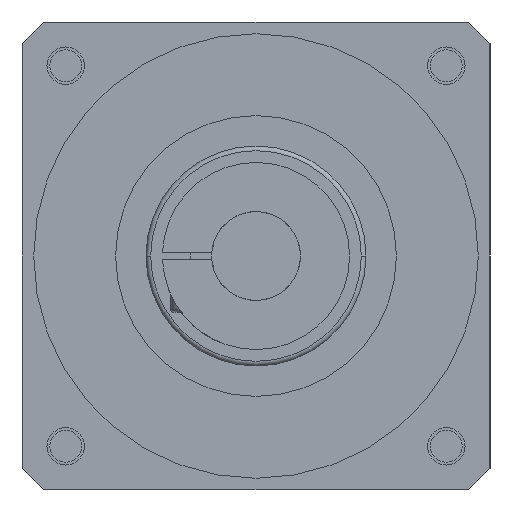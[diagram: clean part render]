
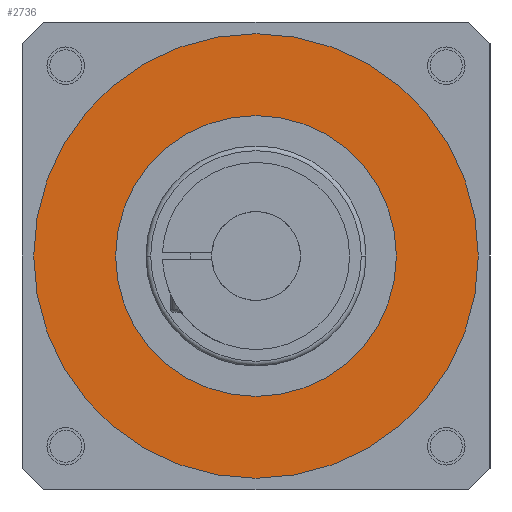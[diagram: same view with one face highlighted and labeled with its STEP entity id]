
A CAD part, left-side view. The second image highlights one B-rep face of the part: STEP entity #2736.
In plain terms, the highlighted planar face has unit normal (-1, 0, 0).
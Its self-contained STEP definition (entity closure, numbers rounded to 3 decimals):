
#273=CARTESIAN_POINT('',(5.,0.,0.));
#274=DIRECTION('',(-1.,0.,0.));
#275=DIRECTION('',(0.,1.,0.));
#276=AXIS2_PLACEMENT_3D('',#273,#274,#275);
#282=CARTESIAN_POINT('',(5.,0.,0.));
#283=DIRECTION('',(1.,0.,0.));
#284=DIRECTION('',(0.,1.,0.));
#285=AXIS2_PLACEMENT_3D('',#282,#283,#284);
#291=CARTESIAN_POINT('',(5.,0.,0.));
#292=DIRECTION('',(-1.,0.,0.));
#293=DIRECTION('',(0.,1.,0.));
#294=AXIS2_PLACEMENT_3D('',#291,#292,#293);
#296=CARTESIAN_POINT('',(5.,0.,0.));
#297=DIRECTION('',(1.,0.,0.));
#298=DIRECTION('',(0.,1.,0.));
#299=AXIS2_PLACEMENT_3D('',#296,#297,#298);
#2121=CARTESIAN_POINT('',(5.,-30.,0.));
#2123=VERTEX_POINT('',#2121);
#2125=CARTESIAN_POINT('',(5.,30.,0.));
#2127=VERTEX_POINT('',#2125);
#2133=CARTESIAN_POINT('',(5.,47.5,0.));
#2134=CARTESIAN_POINT('',(5.,-47.5,0.));
#2135=VERTEX_POINT('',#2133);
#2136=VERTEX_POINT('',#2134);
#2721=CARTESIAN_POINT('',(5.,0.,0.));
#2722=DIRECTION('',(1.,0.,0.));
#2723=DIRECTION('',(0.,1.,0.));
#2724=AXIS2_PLACEMENT_3D('',#2721,#2722,#2723);
#2725=PLANE('',#2724);
#2726=ORIENTED_EDGE('',*,*,#2715,.T.);
#2727=ORIENTED_EDGE('',*,*,#2701,.F.);
#2728=EDGE_LOOP('',(#2726,#2727));
#2729=FACE_OUTER_BOUND('',#2728,.F.);
#2731=ORIENTED_EDGE('',*,*,#2730,.T.);
#2733=ORIENTED_EDGE('',*,*,#2732,.F.);
#2734=EDGE_LOOP('',(#2731,#2733));
#2735=FACE_BOUND('',#2734,.F.);
#277=CIRCLE('',#276,47.5);
#286=CIRCLE('',#285,47.5);
#295=CIRCLE('',#294,30.);
#300=CIRCLE('',#299,30.);
#2701=EDGE_CURVE('',#2135,#2136,#277,.T.);
#2715=EDGE_CURVE('',#2135,#2136,#286,.T.);
#2730=EDGE_CURVE('',#2127,#2123,#295,.T.);
#2732=EDGE_CURVE('',#2127,#2123,#300,.T.);
#2736=ADVANCED_FACE('',(#2729,#2735),#2725,.F.);
